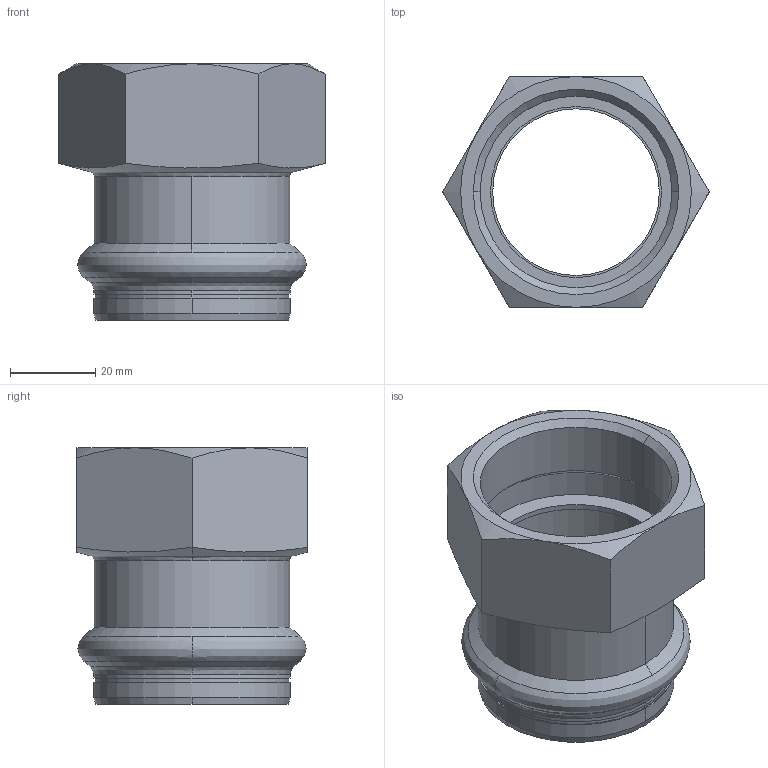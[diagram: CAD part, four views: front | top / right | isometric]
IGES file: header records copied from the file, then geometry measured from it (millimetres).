
Start section: Elysium IGES Interface
Global section: file name: F:\3d modellen sudo\S-Pr VP\SP6270GV\6270GVW42112.igs; native system: CoCreate Modeling 17.00A  17-Jun-2010; preprocessor: CoCreate IGES_3D V2.2; author: Unknown; organization: Unknown; date: 20130128.124738; units: millimetre
Bounding box: 62.35 x 54 x 60 mm (x, y, z)
Volume: 34284.2 mm3; surface area: 21285 mm2
Topology: 1 solids, 1 shells, 67 faces, 156 edges, 96 vertices
Faces by surface type: bspline 67
